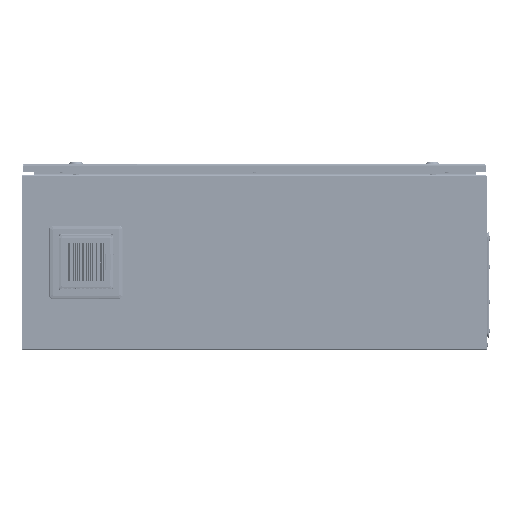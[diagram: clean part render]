
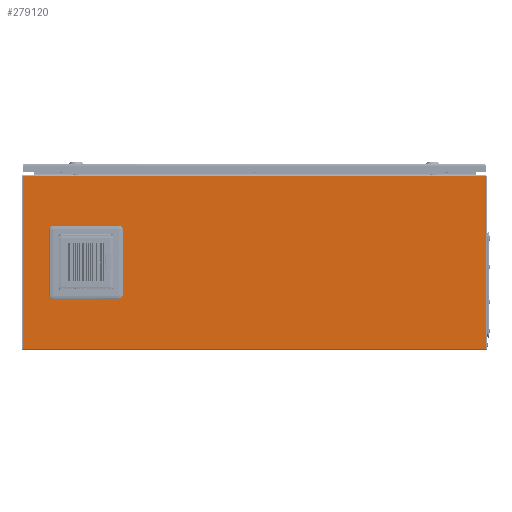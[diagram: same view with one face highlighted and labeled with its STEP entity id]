
A CAD part, left-side view. The second image highlights one B-rep face of the part: STEP entity #279120.
In plain terms, the highlighted planar face has unit normal (-1, 0, 0).
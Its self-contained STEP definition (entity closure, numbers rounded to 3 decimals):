
#1074 = EDGE_CURVE ( 'NONE', #384914, #459586, #24274, .T. ) ;
#23124 = DIRECTION ( 'NONE',  ( 0., 1., 0. ) ) ;
#24274 = LINE ( 'NONE', #370732, #405952 ) ;
#25018 = CARTESIAN_POINT ( 'NONE',  ( -400., 299.9, -23.5 ) ) ;
#25384 = FACE_BOUND ( 'NONE', #65221, .T. ) ;
#34711 = DIRECTION ( 'NONE',  ( 0., -1., 0. ) ) ;
#39316 = DIRECTION ( 'NONE',  ( -1., 0., 0. ) ) ;
#50997 = VECTOR ( 'NONE', #326029, 1000. ) ;
#59242 = ORIENTED_EDGE ( 'NONE', *, *, #68443, .F. ) ;
#65221 = EDGE_LOOP ( 'NONE', ( #326806, #547547, #258239, #449467 ) ) ;
#65644 = CARTESIAN_POINT ( 'NONE',  ( -400., 498.5, 223.75 ) ) ;
#68443 = EDGE_CURVE ( 'NONE', #459586, #524400, #251590, .T. ) ;
#68478 = VERTEX_POINT ( 'NONE', #271153 ) ;
#69696 = DIRECTION ( 'NONE',  ( 0., -1., 0. ) ) ;
#80759 = EDGE_CURVE ( 'NONE', #101939, #524034, #366831, .T. ) ;
#89237 = CARTESIAN_POINT ( 'NONE',  ( -400., 498.5, -150. ) ) ;
#99185 = EDGE_CURVE ( 'NONE', #423044, #68478, #547362, .T. ) ;
#100212 = VERTEX_POINT ( 'NONE', #198382 ) ;
#101939 = VERTEX_POINT ( 'NONE', #374519 ) ;
#108984 = ORIENTED_EDGE ( 'NONE', *, *, #99185, .F. ) ;
#109212 = LINE ( 'NONE', #239602, #189513 ) ;
#115718 = VECTOR ( 'NONE', #409167, 1000. ) ;
#144025 = VECTOR ( 'NONE', #290989, 1000. ) ;
#147299 = DIRECTION ( 'NONE',  ( 0., 1., 0. ) ) ;
#163232 = VECTOR ( 'NONE', #288893, 1000. ) ;
#165601 = AXIS2_PLACEMENT_3D ( 'NONE', #329211, #39316, #204074 ) ;
#174946 = CARTESIAN_POINT ( 'NONE',  ( -400., -498.317, 223.85 ) ) ;
#177137 = VECTOR ( 'NONE', #446324, 1000. ) ;
#189513 = VECTOR ( 'NONE', #370516, 1000. ) ;
#198382 = CARTESIAN_POINT ( 'NONE',  ( -400., -498.5, 223.75 ) ) ;
#198490 = FACE_OUTER_BOUND ( 'NONE', #428394, .T. ) ;
#204074 = DIRECTION ( 'NONE',  ( 0., 0., 1. ) ) ;
#207768 = CARTESIAN_POINT ( 'NONE',  ( -400., 424.9, -23.5 ) ) ;
#213180 = ORIENTED_EDGE ( 'NONE', *, *, #324150, .T. ) ;
#227663 = CARTESIAN_POINT ( 'NONE',  ( -400., 424.9, -23.5 ) ) ;
#231246 = VECTOR ( 'NONE', #147299, 1000. ) ;
#232407 = LINE ( 'NONE', #312147, #231246 ) ;
#234277 = ORIENTED_EDGE ( 'NONE', *, *, #295471, .F. ) ;
#239602 = CARTESIAN_POINT ( 'NONE',  ( -400., 498.5, 223.85 ) ) ;
#241859 = LINE ( 'NONE', #207768, #278615 ) ;
#251590 = LINE ( 'NONE', #475841, #255924 ) ;
#253095 = CARTESIAN_POINT ( 'NONE',  ( -400., 424.9, 101.5 ) ) ;
#255924 = VECTOR ( 'NONE', #257081, 1000. ) ;
#256515 = CARTESIAN_POINT ( 'NONE',  ( -400., 498.317, 223.75 ) ) ;
#257081 = DIRECTION ( 'NONE',  ( 0., 0., 1. ) ) ;
#258239 = ORIENTED_EDGE ( 'NONE', *, *, #376032, .F. ) ;
#262250 = DIRECTION ( 'NONE',  ( 0., 0., -1. ) ) ;
#271153 = CARTESIAN_POINT ( 'NONE',  ( -400., -498.317, 223.75 ) ) ;
#275840 = CARTESIAN_POINT ( 'NONE',  ( -400., 498.5, -147.1 ) ) ;
#278128 = PLANE ( 'NONE',  #165601 ) ;
#278557 = LINE ( 'NONE', #451810, #115718 ) ;
#278615 = VECTOR ( 'NONE', #34711, 1000. ) ;
#279120 = ADVANCED_FACE ( 'NONE', ( #25384, #198490 ), #278128, .T. ) ;
#283487 = EDGE_CURVE ( 'NONE', #347552, #443930, #278557, .T. ) ;
#288893 = DIRECTION ( 'NONE',  ( 0., 0., -1. ) ) ;
#290989 = DIRECTION ( 'NONE',  ( 0., 0., -1. ) ) ;
#295471 = EDGE_CURVE ( 'NONE', #524400, #423044, #109212, .T. ) ;
#305462 = ORIENTED_EDGE ( 'NONE', *, *, #1074, .F. ) ;
#312147 = CARTESIAN_POINT ( 'NONE',  ( -400., 424.9, 101.5 ) ) ;
#321451 = ORIENTED_EDGE ( 'NONE', *, *, #488390, .T. ) ;
#324150 = EDGE_CURVE ( 'NONE', #100212, #68478, #534277, .T. ) ;
#326029 = DIRECTION ( 'NONE',  ( 0., 0., 1. ) ) ;
#326806 = ORIENTED_EDGE ( 'NONE', *, *, #424957, .F. ) ;
#329211 = CARTESIAN_POINT ( 'NONE',  ( -400., 498.5, -150. ) ) ;
#342081 = LINE ( 'NONE', #376313, #144025 ) ;
#346398 = CARTESIAN_POINT ( 'NONE',  ( -400., -498.5, -147.1 ) ) ;
#347552 = VERTEX_POINT ( 'NONE', #253095 ) ;
#366831 = LINE ( 'NONE', #275840, #177137 ) ;
#368660 = CARTESIAN_POINT ( 'NONE',  ( -400., -498.317, -150. ) ) ;
#369481 = CARTESIAN_POINT ( 'NONE',  ( -400., 498.317, 223.85 ) ) ;
#370516 = DIRECTION ( 'NONE',  ( 0., -1., 0. ) ) ;
#370732 = CARTESIAN_POINT ( 'NONE',  ( -400., 498.5, 223.75 ) ) ;
#371450 = LINE ( 'NONE', #25018, #50997 ) ;
#374519 = CARTESIAN_POINT ( 'NONE',  ( -400., 498.5, -147.1 ) ) ;
#376032 = EDGE_CURVE ( 'NONE', #443930, #462639, #241859, .T. ) ;
#376313 = CARTESIAN_POINT ( 'NONE',  ( -400., -498.5, -150. ) ) ;
#384914 = VERTEX_POINT ( 'NONE', #439755 ) ;
#384963 = EDGE_CURVE ( 'NONE', #462639, #480731, #371450, .T. ) ;
#405952 = VECTOR ( 'NONE', #69696, 1000. ) ;
#409167 = DIRECTION ( 'NONE',  ( 0., 0., -1. ) ) ;
#419457 = CARTESIAN_POINT ( 'NONE',  ( -400., 299.9, -23.5 ) ) ;
#422284 = ORIENTED_EDGE ( 'NONE', *, *, #80759, .T. ) ;
#423044 = VERTEX_POINT ( 'NONE', #174946 ) ;
#424957 = EDGE_CURVE ( 'NONE', #480731, #347552, #232407, .T. ) ;
#428394 = EDGE_LOOP ( 'NONE', ( #234277, #59242, #305462, #321451, #422284, #431851, #213180, #108984 ) ) ;
#431851 = ORIENTED_EDGE ( 'NONE', *, *, #456264, .F. ) ;
#439755 = CARTESIAN_POINT ( 'NONE',  ( -400., 498.5, 223.75 ) ) ;
#443930 = VERTEX_POINT ( 'NONE', #227663 ) ;
#446324 = DIRECTION ( 'NONE',  ( 0., -1., 0. ) ) ;
#449467 = ORIENTED_EDGE ( 'NONE', *, *, #283487, .F. ) ;
#451810 = CARTESIAN_POINT ( 'NONE',  ( -400., 424.9, -23.5 ) ) ;
#456264 = EDGE_CURVE ( 'NONE', #100212, #524034, #342081, .T. ) ;
#459586 = VERTEX_POINT ( 'NONE', #256515 ) ;
#462639 = VERTEX_POINT ( 'NONE', #419457 ) ;
#473898 = CARTESIAN_POINT ( 'NONE',  ( -400., 299.9, 101.5 ) ) ;
#475841 = CARTESIAN_POINT ( 'NONE',  ( -400., 498.317, -150. ) ) ;
#480731 = VERTEX_POINT ( 'NONE', #473898 ) ;
#488390 = EDGE_CURVE ( 'NONE', #384914, #101939, #529163, .T. ) ;
#521519 = VECTOR ( 'NONE', #262250, 1000. ) ;
#524034 = VERTEX_POINT ( 'NONE', #346398 ) ;
#524400 = VERTEX_POINT ( 'NONE', #369481 ) ;
#529163 = LINE ( 'NONE', #89237, #521519 ) ;
#533895 = VECTOR ( 'NONE', #23124, 1000. ) ;
#534277 = LINE ( 'NONE', #65644, #533895 ) ;
#547362 = LINE ( 'NONE', #368660, #163232 ) ;
#547547 = ORIENTED_EDGE ( 'NONE', *, *, #384963, .F. ) ;
